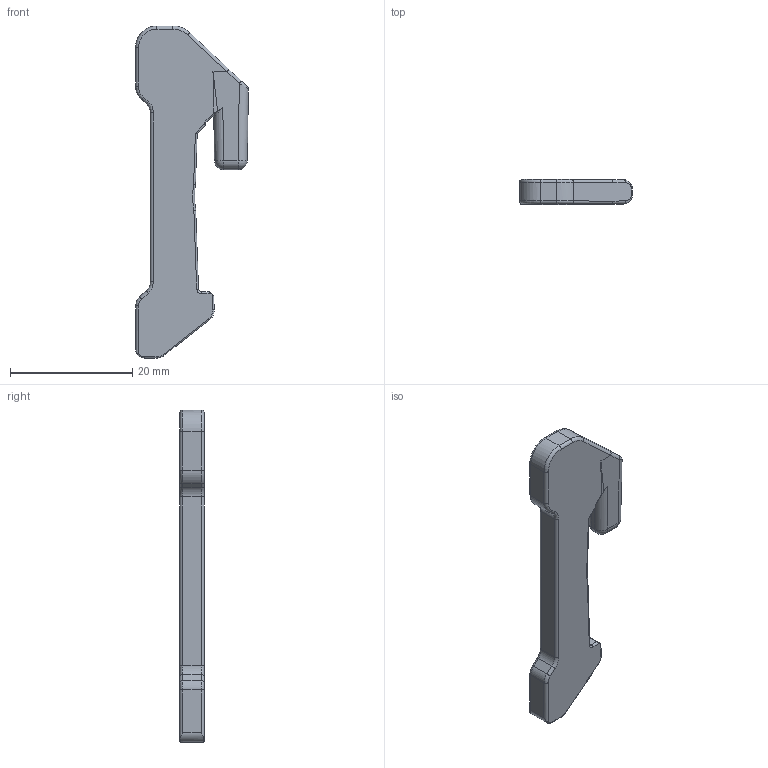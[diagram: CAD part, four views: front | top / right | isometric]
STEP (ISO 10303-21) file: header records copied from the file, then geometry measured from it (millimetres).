
FILE_DESCRIPTION(/* description */ (''),/* implementation_level */ '2;1');
FILE_NAME(/* name */ 'Holder_May 16, 2022',/* time_stamp */ '2022-05-16T21:00:38+08:00',/* author */ (''),/* organization */ (''),/* preprocessor_version */ 'ST-DEVELOPER v9',/* originating_system */ 'UGS - NX 4.0',/* authorisation */ '');
FILE_SCHEMA (('AUTOMOTIVE_DESIGN { 1 0 10303 214 1 1 1 1 }'));
Length unit declared in the file: millimetre
Products named in the file (1): RicoEDD1ya51
Bounding box: 18.44 x 4.02 x 54.21 mm (x, y, z)
Volume: 2296 mm3; surface area: 1696.8 mm2
Topology: 1 solids, 1 shells, 119 faces, 281 edges, 160 vertices
Faces by surface type: cylinder 57, bspline 28, plane 26, sphere 6, torus 2
Entity records: 3685 total; most frequent: CARTESIAN_POINT 1003, DIRECTION 584, ORIENTED_EDGE 554, EDGE_CURVE 277, AXIS2_PLACEMENT_3D 230, VERTEX_POINT 160, LINE 124, VECTOR 124
